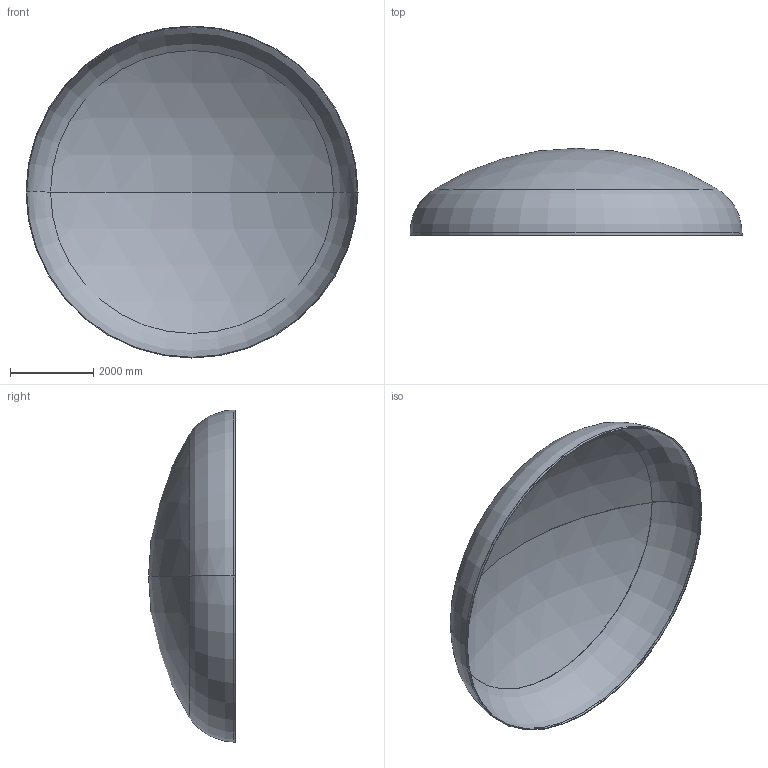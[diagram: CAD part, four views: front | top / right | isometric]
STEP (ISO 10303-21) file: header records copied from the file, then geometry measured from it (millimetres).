
FILE_DESCRIPTION (( 'STEP AP203' ), '1' );
FILE_NAME ('DIN 28013 Korbbogenform_-_Boden DIN 28013 - 8000 x 55 - I - s=16.step', '2016-07-04T10:58:50', ( '' ), ( '' ), 'SwSTEP 2.0', 'SolidWorks 2013', '' );
FILE_SCHEMA (( 'CONFIG_CONTROL_DESIGN' ));
Length unit declared in the file: millimetre
Products named in the file (1): DIN 28013 Korbbogenform_-_Boden DIN 28013 - 8000 x 55 - I - s=16
Bounding box: 8000 x 2095.57 x 8000 mm (x, y, z)
Volume: 1132754464.3 mm3; surface area: 141996105.3 mm2
Topology: 1 solids, 1 shells, 13 faces, 24 edges, 14 vertices
Faces by surface type: torus 4, cylinder 4, sphere 4, plane 1
Entity records: 407 total; most frequent: DIRECTION 72, CARTESIAN_POINT 52, ORIENTED_EDGE 48, AXIS2_PLACEMENT_3D 34, EDGE_CURVE 24, CIRCLE 20, VERTEX_POINT 14, EDGE_LOOP 14
